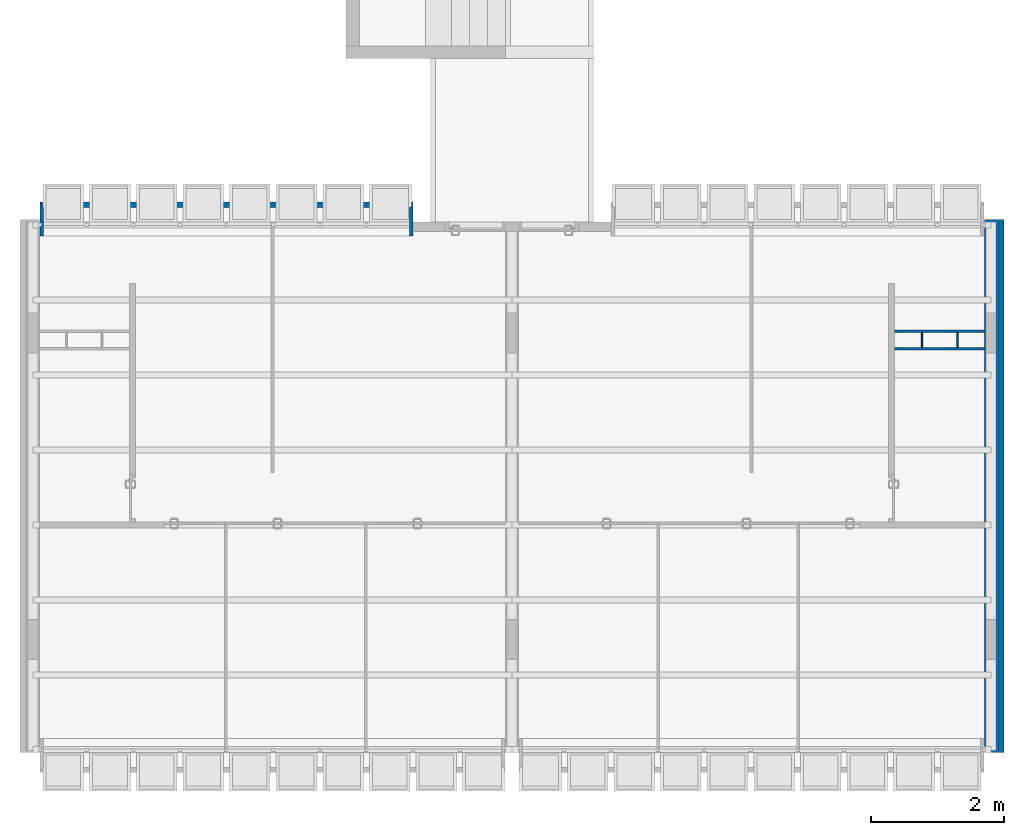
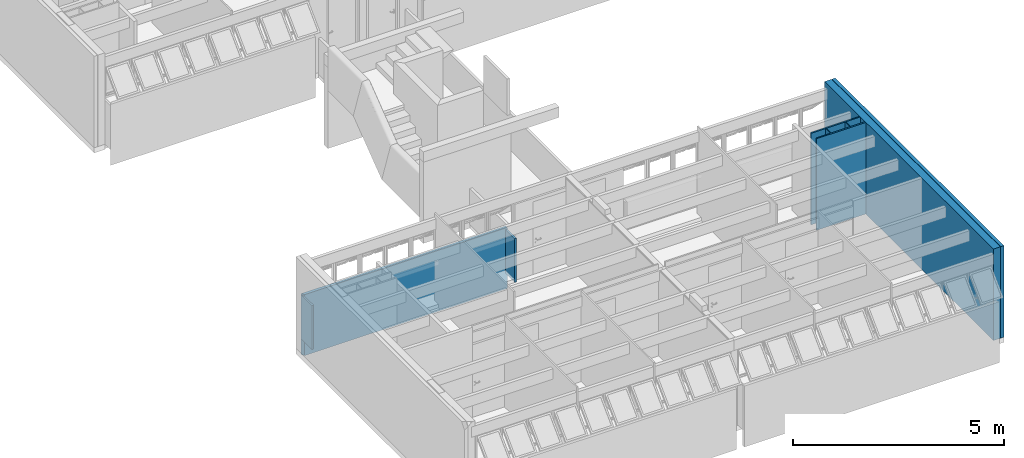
# One storey, part 12 of 38: 9 walls.
"""IFC2X3 building model written with IfcOpenShell, lengths in millimetres."""

from ifc_helpers import new_model, entity, si_unit, converted_unit, derived_unit, money_unit, direction, frame, origin_with_axes, place, context, subcontext, project, spatial, polyline, outline, extrude, material, layer, layer_set, layer_usage, type_object, element, save


model = new_model("IFC2X3")

# Units and contexts
model_context = context("Model", 3, precision=0.01, world=origin_with_axes(), true_north=direction((0.0, 1.0)))
body_context = subcontext(model_context, "Body", "Model", "MODEL_VIEW")
ifc_project = project(units=[si_unit("LENGTHUNIT", "METRE", prefix="MILLI"), si_unit("AREAUNIT", "SQUARE_METRE"), si_unit("VOLUMEUNIT", "CUBIC_METRE"), converted_unit("PLANEANGLEUNIT", "DEGREE", entity("IfcPlaneAngleMeasure", 0.0174532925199), si_unit("PLANEANGLEUNIT", "RADIAN"), dimensions=[0, 0, 0, 0, 0, 0, 0]), money_unit("USD"), converted_unit("TIMEUNIT", "Year", entity("IfcTimeMeasure", 31556926.0), si_unit("TIMEUNIT", "SECOND"), dimensions=[0, 0, 1, 0, 0, 0, 0]), si_unit("MASSUNIT", "GRAM", prefix="KILO"), si_unit("THERMODYNAMICTEMPERATUREUNIT", "DEGREE_CELSIUS"), si_unit("LUMINOUSINTENSITYUNIT", "LUMEN"), si_unit("ENERGYUNIT", "JOULE", prefix="MEGA"), derived_unit("THERMALCONDUCTANCEUNIT", [(si_unit("POWERUNIT", "WATT"), 1), (si_unit("LENGTHUNIT", "METRE"), -1), (si_unit("THERMODYNAMICTEMPERATUREUNIT", "KELVIN"), -1)]), derived_unit("SPECIFICHEATCAPACITYUNIT", [(si_unit("ENERGYUNIT", "JOULE"), 1), (si_unit("MASSUNIT", "GRAM", prefix="KILO"), -1), (si_unit("THERMODYNAMICTEMPERATUREUNIT", "KELVIN"), -1)]), derived_unit("MASSDENSITYUNIT", [(si_unit("MASSUNIT", "GRAM", prefix="KILO"), 1), (si_unit("VOLUMEUNIT", "CUBIC_METRE"), -1)])], contexts=[model_context])

# Site, building, storey
site_placement = place(None, origin_with_axes())
site = spatial("IfcSite", under=ifc_project, at=site_placement, Name="Local", CompositionType="ELEMENT")
building_placement = place(site_placement, origin_with_axes())
building = spatial("IfcBuilding", under=site, at=building_placement, Name="Construção", CompositionType="ELEMENT")
storey_placement = place(building_placement, frame((0.0, 0.0, 2650.0), z_axis=(0.0, 0.0, 1.0), x_axis=(1.0, 0.0, 0.0)))
storey = spatial("IfcBuildingStorey", under=building, at=storey_placement, Name="Segundo Pavimento", CompositionType="ELEMENT", Elevation=2650.0)

# Walls
ifc_material_1 = material(Name="GENÉRICO - VEDAÇÃO EXTERNA")
ifc_layer_1 = layer(ifc_material_1, 190.0, ventilated="UNKNOWN")
ifc_layer_set_1 = layer_set([ifc_layer_1], Name="GENÉRICO - VEDAÇÃO EXTERNA 190")
ifc_layer_usage_1 = layer_usage(ifc_layer_set_1, "AXIS2", "POSITIVE", 0.0)
wall_type_1 = type_object("IfcWallType", Name="GENÉRICO - VEDAÇÃO EXTERNA 190", PredefinedType="NOTDEFINED")
wall_1_placement = place(storey_placement, frame((14480.0, 8300.0, 0.0), z_axis=(0.0, 0.0, 1.0), x_axis=(0.0, -1.0, 0.0)))
element("IfcWallStandardCase", 1, at=wall_1_placement, inside=storey, type_object=wall_type_1, material=ifc_layer_usage_1, Name="APTO6-PAREDE-013", context=body_context, shape_type="SweptSolid", body=[
    extrude(outline(polyline([(0.0, 0.0), (8000.0, 0.0), (8000.0, 190.0), (0.0, 190.0), (0.0, 0.0)])), origin_with_axes(), (0.0, 0.0, 1.0), 2650.0),
])
ifc_layer_2 = layer(ifc_material_1, 40.0, ventilated="UNKNOWN")
ifc_layer_set_2 = layer_set([ifc_layer_2], Name="GENÉRICO - VEDAÇÃO EXTERNA 40")
ifc_layer_usage_2 = layer_usage(ifc_layer_set_2, "AXIS2", "POSITIVE", -40.0)
wall_type_2 = type_object("IfcWallType", Name="GENÉRICO - VEDAÇÃO EXTERNA 40", PredefinedType="NOTDEFINED")
wall_2_placement = place(storey_placement, frame((14480.0, 6345.0, 0.0), z_axis=(0.0, 0.0, 1.0), x_axis=(-1.0, 0.0, 0.0)))
element("IfcWallStandardCase", 2, at=wall_2_placement, inside=storey, type_object=wall_type_2, material=ifc_layer_usage_2, Name="APTO6-PAREDE-011", context=body_context, shape_type="SweptSolid", body=[
    extrude(outline(polyline([(0.0, -40.0), (1350.0, -40.0), (1350.0, 0.0), (0.0, 0.0), (0.0, -40.0)])), origin_with_axes(), (0.0, 0.0, 1.0), 2650.0),
])
ifc_layer_usage_3 = layer_usage(ifc_layer_set_2, "AXIS2", "POSITIVE", -40.0)
wall_3_placement = place(storey_placement, frame((13040.0, 6645.0, 0.0), z_axis=(0.0, 0.0, 1.0), x_axis=(1.0, 0.0, 0.0)))
element("IfcWallStandardCase", 3, at=wall_3_placement, inside=storey, type_object=wall_type_2, material=ifc_layer_usage_3, Name="APTO6-PAREDE-010", context=body_context, shape_type="SweptSolid", body=[
    extrude(outline(polyline([(90.0, -40.0), (1440.0, -40.0), (1440.0, 0.0), (90.0, 0.0), (90.0, -40.0)])), origin_with_axes(), (0.0, 0.0, 1.0), 2650.0),
])
ifc_layer_3 = layer(ifc_material_1, 90.0, ventilated="UNKNOWN")
ifc_layer_set_3 = layer_set([ifc_layer_3], Name="GENÉRICO - VEDAÇÃO EXTERNA 90")
ifc_layer_usage_4 = layer_usage(ifc_layer_set_3, "AXIS2", "POSITIVE", 0.0)
wall_type_3 = type_object("IfcWallType", Name="GENÉRICO - VEDAÇÃO EXTERNA 90", PredefinedType="NOTDEFINED")
wall_4_placement = place(storey_placement, frame((14680.0, 8300.0, 0.0), z_axis=(0.0, 0.0, 1.0), x_axis=(0.0, -1.0, 0.0)))
element("IfcWallStandardCase", 4, at=wall_4_placement, inside=storey, type_object=wall_type_3, material=ifc_layer_usage_4, Name="APTO6-PAREDE-014", context=body_context, shape_type="SweptSolid", body=[
    extrude(outline(polyline([(0.0, 0.0), (8000.0, 0.0), (8000.0, 90.0), (0.0, 90.0), (0.0, 0.0)])), origin_with_axes(), (0.0, 0.0, 1.0), 2650.0),
])
ifc_material_2 = material(Name="Concreto Armado Moldado in Loco - Estrutural")
ifc_layer_4 = layer(ifc_material_2, 50.0, ventilated="UNKNOWN")
ifc_layer_set_4 = layer_set([ifc_layer_4], Name="Concreto Armado Moldado in Loco - Estrutural 50")
ifc_layer_usage_5 = layer_usage(ifc_layer_set_4, "AXIS2", "POSITIVE", -50.0)
wall_type_4 = type_object("IfcWallType", Name="Concreto Armado Moldado in Loco - Estrutural 50", PredefinedType="NOTDEFINED")
wall_5_placement = place(storey_placement, frame((5850.0, 8054.99999866, 0.0), z_axis=(0.0, 0.0, 1.0), x_axis=(0.0, 1.0, 0.0)))
element("IfcWallStandardCase", 5, at=wall_5_placement, inside=storey, type_object=wall_type_4, material=ifc_layer_usage_5, Name="APTO5-PAREDE-016", context=body_context, shape_type="SweptSolid", body=[
    extrude(outline(polyline([(0.0, -50.0), (435.0, -50.0), (435.0, 0.0), (0.0, 0.0), (0.0, -50.0)])), origin_with_axes(), (0.0, 0.0, 1.0), 1270.0),
])
ifc_layer_usage_6 = layer_usage(ifc_layer_set_4, "AXIS2", "POSITIVE", -50.0)
wall_6_placement = place(storey_placement, frame((300.0, 8054.99999866, 0.0), z_axis=(0.0, 0.0, 1.0), x_axis=(0.0, 1.0, 0.0)))
element("IfcWallStandardCase", 6, at=wall_6_placement, inside=storey, type_object=wall_type_4, material=ifc_layer_usage_6, Name="APTO5-PAREDE-018", context=body_context, shape_type="SweptSolid", body=[
    extrude(outline(polyline([(0.0, -50.0), (430.0, -50.0), (510.0, 0.0), (0.0, 0.0), (0.0, -50.0)])), origin_with_axes(), (0.0, 0.0, 1.0), 1270.0),
])
ifc_layer_5 = layer(ifc_material_1, 20.0, ventilated="UNKNOWN")
ifc_layer_set_5 = layer_set([ifc_layer_5], Name="GENÉRICO - VEDAÇÃO EXTERNA 20")
ifc_layer_usage_7 = layer_usage(ifc_layer_set_5, "AXIS2", "POSITIVE", -20.0)
wall_type_5 = type_object("IfcWallType", Name="GENÉRICO - VEDAÇÃO EXTERNA 20", PredefinedType="NOTDEFINED")
wall_7_placement = place(storey_placement, frame((14060.0, 6345.0, 0.0), z_axis=(0.0, 0.0, 1.0), x_axis=(0.0, 1.0, 0.0)))
element("IfcWallStandardCase", 7, at=wall_7_placement, inside=storey, type_object=wall_type_5, material=ifc_layer_usage_7, Name="APTO6-PAREDE-009", context=body_context, shape_type="SweptSolid", body=[
    extrude(outline(polyline([(40.0, -20.0), (260.0, -20.0), (260.0, 0.0), (40.0, 0.0), (40.0, -20.0)])), origin_with_axes(), (0.0, 0.0, 1.0), 2650.0),
])
ifc_layer_usage_8 = layer_usage(ifc_layer_set_5, "AXIS2", "POSITIVE", 0.0)
wall_8_placement = place(storey_placement, frame((13530.0, 6645.0, 0.0), z_axis=(0.0, 0.0, 1.0), x_axis=(0.0, -1.0, 0.0)))
element("IfcWallStandardCase", 8, at=wall_8_placement, inside=storey, type_object=wall_type_5, material=ifc_layer_usage_8, Name="APTO6-PAREDE-008", context=body_context, shape_type="SweptSolid", body=[
    extrude(outline(polyline([(40.0, 0.0), (260.0, 0.0), (260.0, 20.0), (40.0, 20.0), (40.0, 0.0)])), origin_with_axes(), (0.0, 0.0, 1.0), 2650.0),
])
ifc_layer_6 = layer(ifc_material_2, 80.0, ventilated="UNKNOWN")
ifc_layer_set_6 = layer_set([ifc_layer_6], Name="Concreto Armado Moldado in Loco - Estrutural 80")
ifc_layer_usage_9 = layer_usage(ifc_layer_set_6, "AXIS2", "NEGATIVE", 80.0)
wall_type_6 = type_object("IfcWallType", Name="Concreto Armado Moldado in Loco - Estrutural 80", PredefinedType="NOTDEFINED")
wall_9_placement = place(storey_placement, frame((300.0, 8484.99999866, -450.0), z_axis=(0.0, 0.0, 1.0), x_axis=(1.0, 0.0, 0.0)))
element("IfcWallStandardCase", 9, at=wall_9_placement, inside=storey, type_object=wall_type_6, material=ifc_layer_usage_9, Name="APTO5-PAREDE-017", context=body_context, shape_type="SweptSolid", body=[
    extrude(outline(polyline([(50.0, 0.0), (5600.0, 0.0), (5600.0, 80.0), (0.0, 80.0), (50.0, 0.0)])), origin_with_axes(), (0.0, 0.0, 1.0), 1765.0),
])

save(model, "model.ifc")
